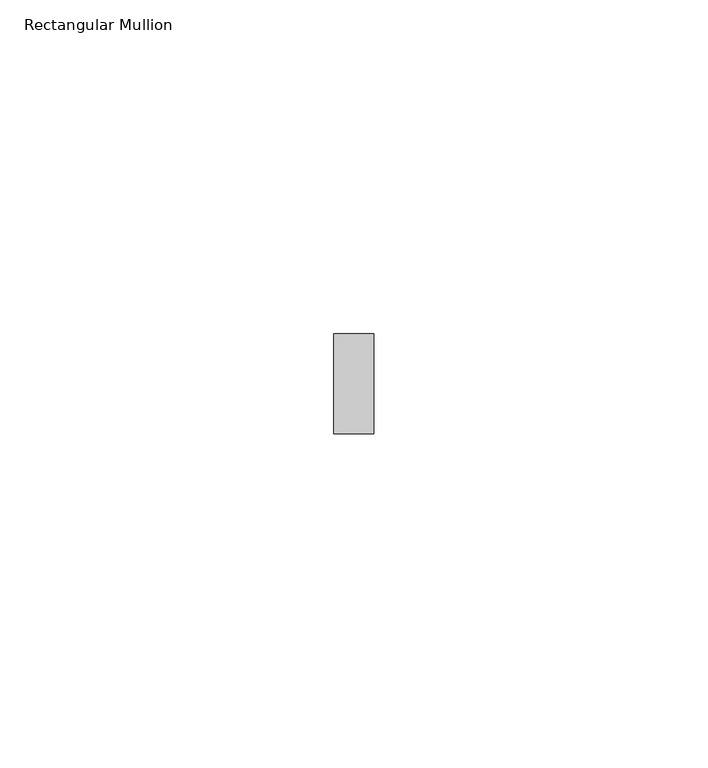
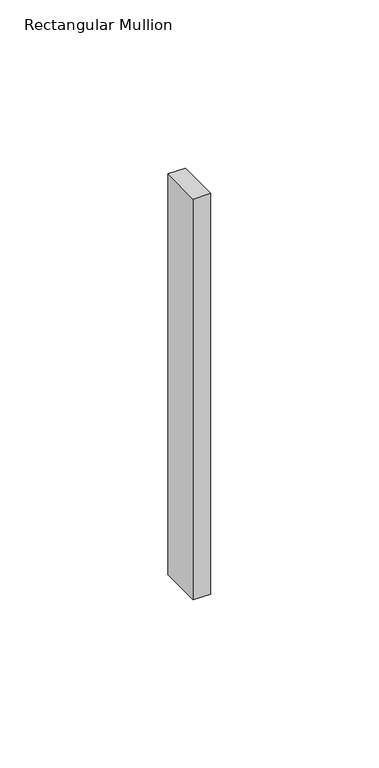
"""IFC4 building model written with IfcOpenShell, lengths in millimetres: member geometry, Rectangular Mullion : ARQ_HERR_15X6mm."""

from ifc_helpers import new_model, si_unit, frame, origin, place, context, project, spatial, polyline, outline, extrude, source, transform, mapped, element, save


def rectangular_mullion_bc77bd75(model_context):
    return source(origin(), model_context, "Body", "SweptSolid", [
        extrude(outline(polyline([(3.0, 7.5), (3.0, -7.5), (-3.0, -7.5), (-3.0, 7.5), (3.0, 7.5)])), frame((0.0, 0.0, -145.4545455), z_axis=(0.0, 0.0, 1.0), x_axis=(1.0, 0.0, 0.0)), (0.0, 0.0, 1.0), 145.4545455),
    ])


if __name__ == "__main__":
    model = new_model("IFC4")
    model_context = context("Model", 3, world=origin())
    ifc_project = project(units=[si_unit("LENGTHUNIT", "METRE", prefix="MILLI")], contexts=[model_context])
    site = spatial("IfcSite", under=ifc_project)
    building = spatial("IfcBuilding", under=site)
    placement = place(None, origin())
    rectangular_mullion_shape = rectangular_mullion_bc77bd75(model_context)
    element("IfcMember", 1, ObjectType="Rectangular Mullion : ARQ_HERR_15X6mm", at=placement, inside=building, context=model_context, shape_type="MappedRepresentation", body=[
        mapped(rectangular_mullion_shape, transform((0.0, 0.0, 0.0), x_axis=(1.0, 0.0, 0.0), y_axis=(0.0, 1.0, 0.0), z_axis=(0.0, 0.0, 1.0))),
    ])
    save(model, "model.ifc")
